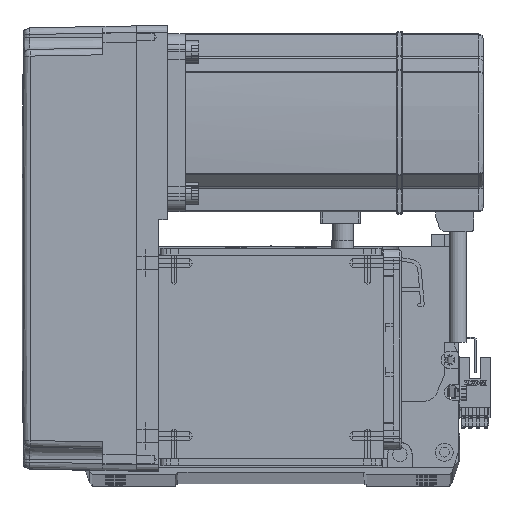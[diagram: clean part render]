
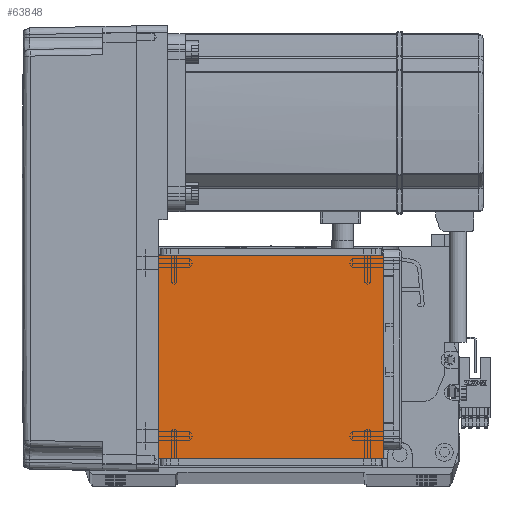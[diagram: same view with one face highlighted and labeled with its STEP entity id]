
A CAD part, top view. The second image highlights one B-rep face of the part: STEP entity #63848.
In plain terms, the highlighted planar face has unit normal (0, 0, 1).
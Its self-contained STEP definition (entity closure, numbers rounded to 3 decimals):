
#5714 = CARTESIAN_POINT ( 'NONE',  ( -50.5, 122., 115. ) ) ;
#7302 = ORIENTED_EDGE ( 'NONE', *, *, #37115, .T. ) ;
#7829 = LINE ( 'NONE', #59086, #60379 ) ;
#8610 = VERTEX_POINT ( 'NONE', #10991 ) ;
#10991 = CARTESIAN_POINT ( 'NONE',  ( -50.5, 111.5, 115. ) ) ;
#11989 = CARTESIAN_POINT ( 'NONE',  ( -70.004, 111.5, 115. ) ) ;
#13638 = ORIENTED_EDGE ( 'NONE', *, *, #63580, .F. ) ;
#13699 = EDGE_CURVE ( 'NONE', #17275, #35415, #28156, .T. ) ;
#17275 = VERTEX_POINT ( 'NONE', #20956 ) ;
#18373 = CARTESIAN_POINT ( 'NONE',  ( 50.5, 122., 115. ) ) ;
#18928 = ORIENTED_EDGE ( 'NONE', *, *, #13699, .T. ) ;
#20956 = CARTESIAN_POINT ( 'NONE',  ( 50.5, 20., 115. ) ) ;
#23694 = DIRECTION ( 'NONE',  ( 0., 1., 0. ) ) ;
#24163 = PLANE ( 'NONE',  #37473 ) ;
#25557 = CARTESIAN_POINT ( 'NONE',  ( -50.5, 20., 115. ) ) ;
#28156 = LINE ( 'NONE', #18373, #32110 ) ;
#29855 = VECTOR ( 'NONE', #32863, 1000. ) ;
#32110 = VECTOR ( 'NONE', #23694, 1000. ) ;
#32863 = DIRECTION ( 'NONE',  ( 1., 0., 0. ) ) ;
#34625 = DIRECTION ( 'NONE',  ( 0., 0., 1. ) ) ;
#35415 = VERTEX_POINT ( 'NONE', #57078 ) ;
#36431 = EDGE_CURVE ( 'NONE', #17275, #40159, #7829, .T. ) ;
#37115 = EDGE_CURVE ( 'NONE', #8610, #40159, #63441, .T. ) ;
#37473 = AXIS2_PLACEMENT_3D ( 'NONE', #65112, #34625, #39744 ) ;
#39020 = DIRECTION ( 'NONE',  ( -1., 0., 0. ) ) ;
#39744 = DIRECTION ( 'NONE',  ( 1., 0., 0. ) ) ;
#40159 = VERTEX_POINT ( 'NONE', #25557 ) ;
#41836 = ORIENTED_EDGE ( 'NONE', *, *, #36431, .F. ) ;
#46649 = LINE ( 'NONE', #11989, #29855 ) ;
#47736 = EDGE_LOOP ( 'NONE', ( #13638, #7302, #41836, #18928 ) ) ;
#50725 = VECTOR ( 'NONE', #55813, 1000. ) ;
#52917 = FACE_OUTER_BOUND ( 'NONE', #47736, .T. ) ;
#55813 = DIRECTION ( 'NONE',  ( 0., -1., 0. ) ) ;
#57078 = CARTESIAN_POINT ( 'NONE',  ( 50.5, 111.5, 115. ) ) ;
#59086 = CARTESIAN_POINT ( 'NONE',  ( -70.004, 20., 115. ) ) ;
#60379 = VECTOR ( 'NONE', #39020, 1000. ) ;
#63441 = LINE ( 'NONE', #5714, #50725 ) ;
#63580 = EDGE_CURVE ( 'NONE', #8610, #35415, #46649, .T. ) ;
#63848 = ADVANCED_FACE ( 'NONE', ( #52917 ), #24163, .T. ) ;
#65112 = CARTESIAN_POINT ( 'NONE',  ( 0., 0., 115. ) ) ;
